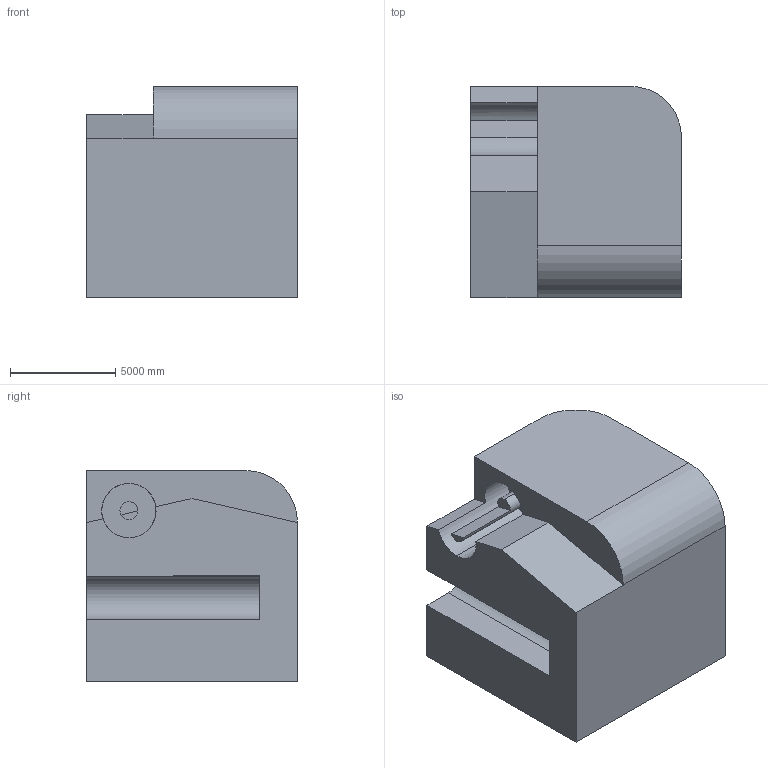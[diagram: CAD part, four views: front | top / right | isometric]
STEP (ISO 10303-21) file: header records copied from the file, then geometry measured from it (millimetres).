
FILE_DESCRIPTION (( 'STEP AP203' ), '1' );
FILE_NAME ('1645.STEP', '2022-08-26T10:31:37', ( 'user' ), ( '' ), 'SwSTEP 2.0', 'SolidWorks 2021', '' );
FILE_SCHEMA (( 'CONFIG_CONTROL_DESIGN' ));
Length unit declared in the file: centimetre
Products named in the file (1): 1645
Bounding box: 10000 x 10000 x 10000 mm (x, y, z)
Volume: 817327158375.8 mm3; surface area: 655391700.9 mm2
Topology: 1 solids, 1 shells, 34 faces, 93 edges, 62 vertices
Faces by surface type: plane 22, cylinder 12
Entity records: 1162 total; most frequent: DIRECTION 191, CARTESIAN_POINT 190, ORIENTED_EDGE 186, EDGE_CURVE 93, VECTOR 65, LINE 65, AXIS2_PLACEMENT_3D 63, VERTEX_POINT 62
